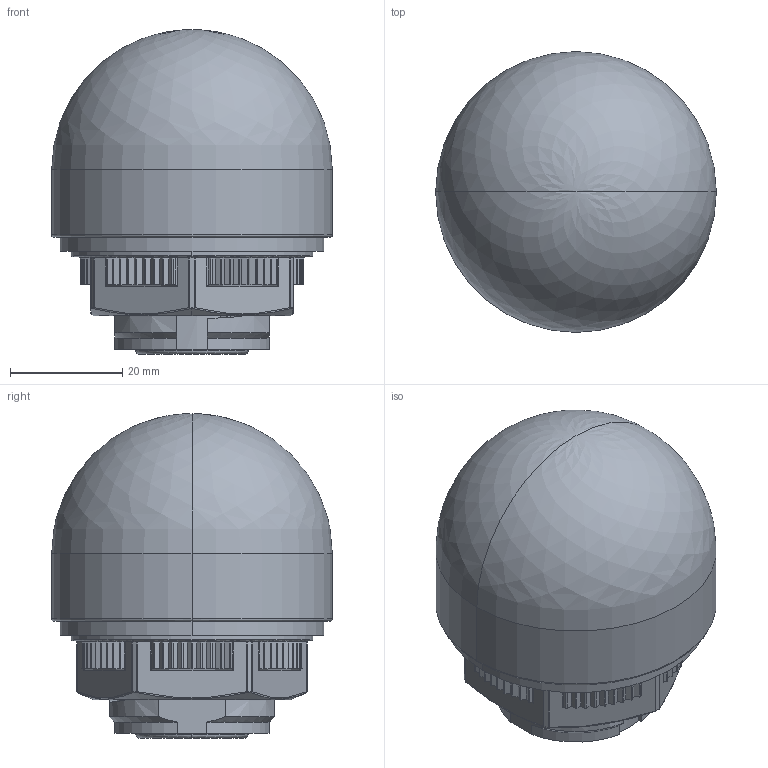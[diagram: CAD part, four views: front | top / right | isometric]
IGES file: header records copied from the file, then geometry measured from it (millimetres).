
Start section: IGES file generated by C3D Converter 1.6 translator by C3D Labs., translator version IGESOUT-5.1.
Global section: file name: C:\Users\Ìîíî\OneDrive\Desktop\øòóêè\Ãëàç\Äàò÷èê â ñáîðå 2.igs; preprocessor: 1.0; author: Ìîíî; organization: unknown; date: -17760803:201938; units: millimetre
Bounding box: 50 x 50 x 57.89 mm (x, y, z)
Volume: 45722.9 mm3; surface area: 24372.2 mm2
Topology: 6 solids, 6 shells, 515 faces, 1285 edges, 769 vertices
Faces by surface type: revolution 350, bspline 165
